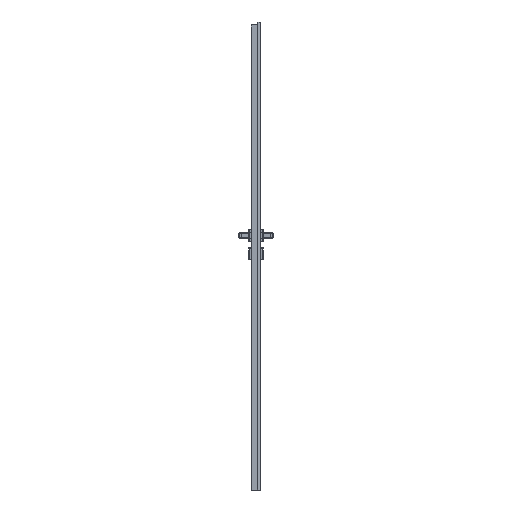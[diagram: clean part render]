
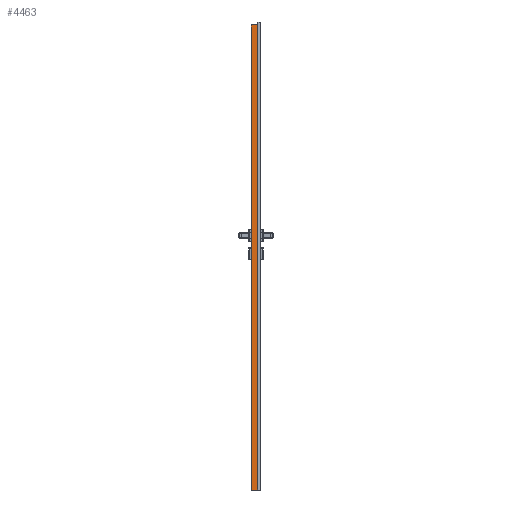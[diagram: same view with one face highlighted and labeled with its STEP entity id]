
A CAD part, left-side view. The second image highlights one B-rep face of the part: STEP entity #4463.
In plain terms, the highlighted planar face has unit normal (-1, 0, 0).
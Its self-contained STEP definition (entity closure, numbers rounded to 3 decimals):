
#4463=ADVANCED_FACE('',(#10510),#7352,.F.);
#7352=PLANE('',#70535);
#10510=FACE_OUTER_BOUND('',#14002,.T.);
#14002=EDGE_LOOP('',(#22401,#22402,#22403,#22404,#22405));
#22401=ORIENTED_EDGE('',*,*,#45784,.T.);
#22402=ORIENTED_EDGE('',*,*,#45787,.T.);
#22403=ORIENTED_EDGE('',*,*,#44972,.T.);
#22404=ORIENTED_EDGE('',*,*,#45788,.F.);
#22405=ORIENTED_EDGE('',*,*,#45789,.T.);
#37698=VERTEX_POINT('',#103273);
#37699=VERTEX_POINT('',#103275);
#38206=VERTEX_POINT('',#104863);
#38208=VERTEX_POINT('',#104866);
#38210=VERTEX_POINT('',#104873);
#44972=EDGE_CURVE('',#37699,#37698,#54004,.T.);
#45784=EDGE_CURVE('',#38208,#38206,#54695,.T.);
#45787=EDGE_CURVE('',#38206,#37699,#54698,.T.);
#45788=EDGE_CURVE('',#38210,#37698,#54699,.T.);
#45789=EDGE_CURVE('',#38210,#38208,#54700,.T.);
#54004=LINE('',#103274,#62037);
#54695=LINE('',#104865,#62728);
#54698=LINE('',#104871,#62731);
#54699=LINE('',#104872,#62732);
#54700=LINE('',#104874,#62733);
#62037=VECTOR('',#77907,1.);
#62728=VECTOR('',#79364,1.);
#62731=VECTOR('',#79369,1.);
#62732=VECTOR('',#79370,1.);
#62733=VECTOR('',#79371,1.);
#70535=AXIS2_PLACEMENT_3D('',#104875,#79372,#79373);
#77907=DIRECTION('',(0.,-1.,0.));
#79364=DIRECTION('',(0.,0.,-1.));
#79369=DIRECTION('',(0.,-0.894,-0.447));
#79370=DIRECTION('',(0.,0.,-1.));
#79371=DIRECTION('',(0.,1.,0.));
#79372=DIRECTION('',(1.,0.,0.));
#79373=DIRECTION('',(0.,0.,-1.));
#103273=CARTESIAN_POINT('',(-309.,-26.,0.));
#103274=CARTESIAN_POINT('',(-309.,0.,0.));
#103275=CARTESIAN_POINT('',(-309.,-2.,0.));
#104863=CARTESIAN_POINT('',(-309.,0.,1.));
#104865=CARTESIAN_POINT('',(-309.,0.,2250.));
#104866=CARTESIAN_POINT('',(-309.,0.,2016.999));
#104871=CARTESIAN_POINT('',(-309.,899.6,450.8));
#104872=CARTESIAN_POINT('',(-309.,-26.,2250.));
#104873=CARTESIAN_POINT('',(-309.,-26.,2016.999));
#104874=CARTESIAN_POINT('',(-309.,0.,2016.999));
#104875=CARTESIAN_POINT('',(-309.,0.,2250.));
